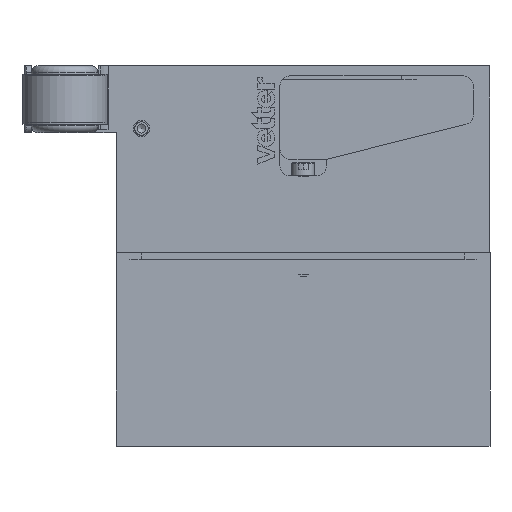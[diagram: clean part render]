
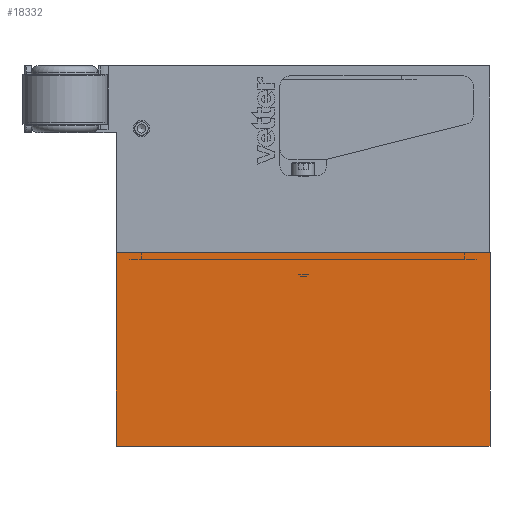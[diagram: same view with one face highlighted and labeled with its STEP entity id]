
A CAD part, left-side view. The second image highlights one B-rep face of the part: STEP entity #18332.
In plain terms, the highlighted planar face has unit normal (-1, 0, 0).
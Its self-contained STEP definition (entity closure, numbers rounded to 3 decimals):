
#1498=PLANE('',#19382);
#2210=FACE_OUTER_BOUND('',#3220,.T.);
#3220=EDGE_LOOP('',(#13773,#13774,#13775,#13776));
#4549=LINE('',#29605,#6078);
#4554=LINE('',#29615,#6083);
#4556=LINE('',#29619,#6085);
#4557=LINE('',#29620,#6086);
#6078=VECTOR('',#22018,10.);
#6083=VECTOR('',#22027,10.);
#6085=VECTOR('',#22031,10.);
#6086=VECTOR('',#22032,10.);
#7928=VERTEX_POINT('',#29602);
#7929=VERTEX_POINT('',#29604);
#7932=VERTEX_POINT('',#29614);
#7933=VERTEX_POINT('',#29618);
#10065=EDGE_CURVE('',#7929,#7928,#4549,.T.);
#10070=EDGE_CURVE('',#7932,#7929,#4554,.T.);
#10072=EDGE_CURVE('',#7933,#7928,#4556,.T.);
#10073=EDGE_CURVE('',#7933,#7932,#4557,.T.);
#13773=ORIENTED_EDGE('',*,*,#10065,.T.);
#13774=ORIENTED_EDGE('',*,*,#10072,.F.);
#13775=ORIENTED_EDGE('',*,*,#10073,.T.);
#13776=ORIENTED_EDGE('',*,*,#10070,.T.);
#18332=ADVANCED_FACE('',(#2210),#1498,.T.);
#19382=AXIS2_PLACEMENT_3D('',#29617,#22029,#22030);
#22018=DIRECTION('',(0.,1.,0.));
#22027=DIRECTION('',(0.,0.,1.));
#22029=DIRECTION('center_axis',(-1.,0.,0.));
#22030=DIRECTION('ref_axis',(0.,0.,
-1.));
#22031=DIRECTION('',(0.,0.,1.));
#22032=DIRECTION('',(0.,-1.,0.));
#29602=CARTESIAN_POINT('',(-50.,112.,2.));
#29604=CARTESIAN_POINT('',(-50.,0.,2.));
#29605=CARTESIAN_POINT('',(-50.,112.,2.));
#29614=CARTESIAN_POINT('',(-50.,0.,-56.));
#29615=CARTESIAN_POINT('',(-50.,0.,-56.));
#29617=CARTESIAN_POINT('Origin',(-50.,0.,
-56.));
#29618=CARTESIAN_POINT('',(-50.,112.,-56.));
#29619=CARTESIAN_POINT('',(-50.,112.,-56.));
#29620=CARTESIAN_POINT('',(-50.,112.,-56.));
